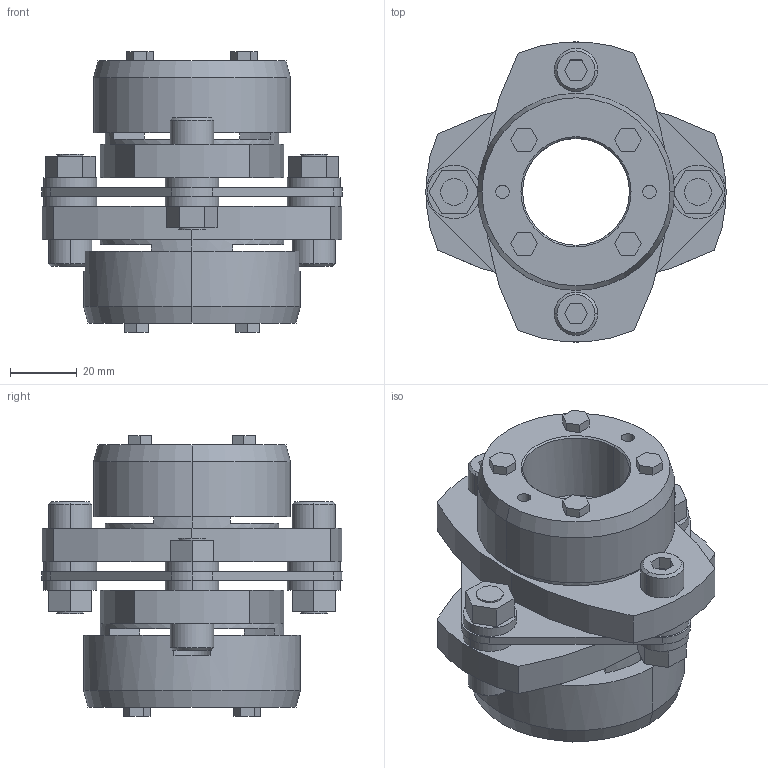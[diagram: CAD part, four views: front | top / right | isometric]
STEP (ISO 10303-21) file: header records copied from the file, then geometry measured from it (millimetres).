
FILE_DESCRIPTION((''),'2;1');
FILE_NAME('LCS-90T7-32×35.stp','2011-09-09T10:20:49',(''),(''),'AutoCAD STEP 2000i','AutoCAD 2000i',', , ');
FILE_SCHEMA(('CONFIG_CONTROL_DESIGN'));
Length unit declared in the file: millimetre
Products named in the file (13): LCS-90T7-32×35; 忣兜1; LC90T7-T035; LC90T7-T032-1; LC90T7-T032; LC90T7-T030; LC90T7-T025-1; LC90T7-T025; LC90T7-T019-1; LC90T7-T019; LC90-B019-1; LC90-B019; LCS90-ITA
Assembly tree (12 placements, depth 2):
  LCS-90T7-32×35
    忣兜1
    LC90T7-T035
    LC90T7-T032-1
    LC90T7-T032
    LC90T7-T030
    LC90T7-T025-1
    LC90T7-T025
    LC90T7-T019-1
    LC90T7-T019
    LC90-B019-1
    LC90-B019
    LCS90-ITA
Bounding box: 90 x 89.94 x 84.1 mm (x, y, z)
Volume: 184271.5 mm3; surface area: 51992.8 mm2
Topology: 1 solids, 1 shells, 251 faces, 616 edges, 402 vertices
Faces by surface type: plane 149, cylinder 82, cone 20
Entity records: 7705 total; most frequent: DIRECTION 1348, CARTESIAN_POINT 1282, ORIENTED_EDGE 1232, EDGE_CURVE 616, AXIS2_PLACEMENT_3D 468, VECTOR 412, LINE 412, VERTEX_POINT 402
